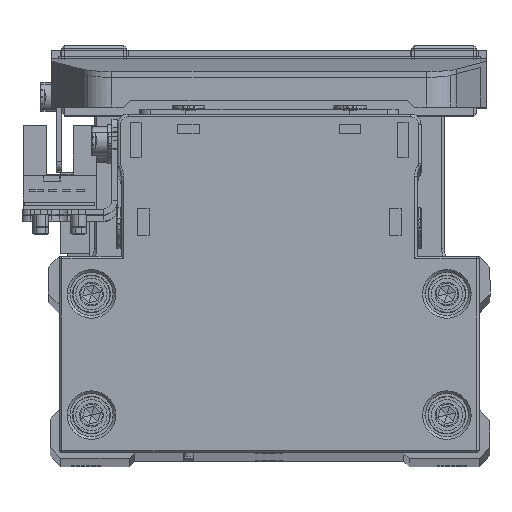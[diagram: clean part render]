
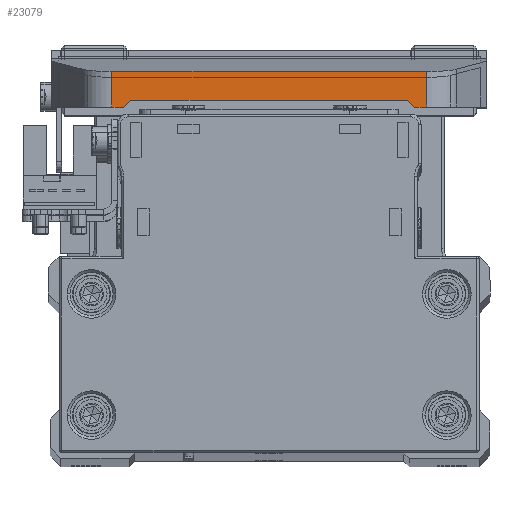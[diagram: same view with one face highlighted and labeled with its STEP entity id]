
A CAD part, top view. The second image highlights one B-rep face of the part: STEP entity #23079.
In plain terms, the highlighted planar face has unit normal (0, 0, 1) as drawn and (-1, 0, 0) by its records, which use the part's own axes.
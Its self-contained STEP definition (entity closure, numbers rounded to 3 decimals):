
#464 = CARTESIAN_POINT ( 'NONE',  ( -67.5, 9.3, 25.5 ) ) ;
#561 = CARTESIAN_POINT ( 'NONE',  ( -67.5, 4., -29.225 ) ) ;
#1150 = CARTESIAN_POINT ( 'NONE',  ( -67.5, 9.3, 25.5 ) ) ;
#1242 = ORIENTED_EDGE ( 'NONE', *, *, #3643, .T. ) ;
#1643 = LINE ( 'NONE', #13688, #36721 ) ;
#2674 = VECTOR ( 'NONE', #8229, 1000. ) ;
#3075 = ORIENTED_EDGE ( 'NONE', *, *, #11744, .T. ) ;
#3484 = CARTESIAN_POINT ( 'NONE',  ( -67.5, 10.6, -27. ) ) ;
#3643 = EDGE_CURVE ( 'NONE', #26319, #13966, #27540, .T. ) ;
#5011 = ORIENTED_EDGE ( 'NONE', *, *, #7530, .T. ) ;
#5339 = EDGE_CURVE ( 'NONE', #24581, #34503, #35786, .T. ) ;
#6158 = ORIENTED_EDGE ( 'NONE', *, *, #26327, .T. ) ;
#6584 = AXIS2_PLACEMENT_3D ( 'NONE', #11669, #23755, #35792 ) ;
#7530 = EDGE_CURVE ( 'NONE', #27559, #20549, #23263, .T. ) ;
#8164 = LINE ( 'NONE', #20234, #15529 ) ;
#8229 = DIRECTION ( 'NONE',  ( 0., -1., 0. ) ) ;
#8657 = VECTOR ( 'NONE', #11688, 1000. ) ;
#8710 = CARTESIAN_POINT ( 'NONE',  ( -67.5, 10.6, 29.225 ) ) ;
#9616 = ORIENTED_EDGE ( 'NONE', *, *, #5339, .T. ) ;
#10139 = VECTOR ( 'NONE', #37293, 1000. ) ;
#11669 = CARTESIAN_POINT ( 'NONE',  ( -67.5, 10.6, 40.4 ) ) ;
#11688 = DIRECTION ( 'NONE',  ( 0., 0., -1. ) ) ;
#11744 = EDGE_CURVE ( 'NONE', #34503, #13548, #12627, .T. ) ;
#12498 = DIRECTION ( 'NONE',  ( 0., 0., -1. ) ) ;
#12627 = LINE ( 'NONE', #24700, #25490 ) ;
#13192 = LINE ( 'NONE', #25261, #10139 ) ;
#13548 = VERTEX_POINT ( 'NONE', #17556 ) ;
#13688 = CARTESIAN_POINT ( 'NONE',  ( -67.5, 4., 40.4 ) ) ;
#13966 = VERTEX_POINT ( 'NONE', #23636 ) ;
#14621 = CARTESIAN_POINT ( 'NONE',  ( -67.5, 10.6, 29.225 ) ) ;
#15529 = VECTOR ( 'NONE', #32289, 1000. ) ;
#15584 = EDGE_CURVE ( 'NONE', #13966, #26721, #8164, .T. ) ;
#17301 = EDGE_LOOP ( 'NONE', ( #1242, #28864, #26395, #5011, #25394, #9616, #3075, #6158 ) ) ;
#17556 = CARTESIAN_POINT ( 'NONE',  ( -67.5, 10.6, 27. ) ) ;
#20234 = CARTESIAN_POINT ( 'NONE',  ( -67.5, 10.6, -27. ) ) ;
#20549 = VERTEX_POINT ( 'NONE', #561 ) ;
#20781 = DIRECTION ( 'NONE',  ( 0., 1., 0. ) ) ;
#23079 = ADVANCED_FACE ( 'NONE', ( #26710 ), #38745, .F. ) ;
#23263 = LINE ( 'NONE', #35304, #2674 ) ;
#23636 = CARTESIAN_POINT ( 'NONE',  ( -67.5, 9.3, -25.5 ) ) ;
#23755 = DIRECTION ( 'NONE',  ( 1., 0., 0. ) ) ;
#24581 = VERTEX_POINT ( 'NONE', #28270 ) ;
#24700 = CARTESIAN_POINT ( 'NONE',  ( -67.5, 10.6, 40.4 ) ) ;
#25261 = CARTESIAN_POINT ( 'NONE',  ( -67.5, 10.6, 27. ) ) ;
#25394 = ORIENTED_EDGE ( 'NONE', *, *, #27417, .F. ) ;
#25490 = VECTOR ( 'NONE', #36742, 1000. ) ;
#25762 = DIRECTION ( 'NONE',  ( 0., 0., -1. ) ) ;
#26319 = VERTEX_POINT ( 'NONE', #1150 ) ;
#26327 = EDGE_CURVE ( 'NONE', #13548, #26319, #13192, .T. ) ;
#26395 = ORIENTED_EDGE ( 'NONE', *, *, #30678, .T. ) ;
#26710 = FACE_OUTER_BOUND ( 'NONE', #17301, .T. ) ;
#26721 = VERTEX_POINT ( 'NONE', #3484 ) ;
#26723 = LINE ( 'NONE', #38765, #8657 ) ;
#27417 = EDGE_CURVE ( 'NONE', #24581, #20549, #1643, .T. ) ;
#27540 = LINE ( 'NONE', #464, #36329 ) ;
#27559 = VERTEX_POINT ( 'NONE', #29507 ) ;
#28270 = CARTESIAN_POINT ( 'NONE',  ( -67.5, 4., 29.225 ) ) ;
#28864 = ORIENTED_EDGE ( 'NONE', *, *, #15584, .T. ) ;
#29507 = CARTESIAN_POINT ( 'NONE',  ( -67.5, 10.6, -29.225 ) ) ;
#29517 = VECTOR ( 'NONE', #20781, 1000. ) ;
#30678 = EDGE_CURVE ( 'NONE', #26721, #27559, #26723, .T. ) ;
#32289 = DIRECTION ( 'NONE',  ( 0., 0.655, -0.756 ) ) ;
#34503 = VERTEX_POINT ( 'NONE', #14621 ) ;
#35304 = CARTESIAN_POINT ( 'NONE',  ( -67.5, 4., -29.225 ) ) ;
#35786 = LINE ( 'NONE', #8710, #29517 ) ;
#35792 = DIRECTION ( 'NONE',  ( 0., 0., -1. ) ) ;
#36329 = VECTOR ( 'NONE', #12498, 1000. ) ;
#36721 = VECTOR ( 'NONE', #25762, 1000. ) ;
#36742 = DIRECTION ( 'NONE',  ( 0., 0., -1. ) ) ;
#37293 = DIRECTION ( 'NONE',  ( 0., -0.655, -0.756 ) ) ;
#38745 = PLANE ( 'NONE',  #6584 ) ;
#38765 = CARTESIAN_POINT ( 'NONE',  ( -67.5, 10.6, 40.4 ) ) ;
